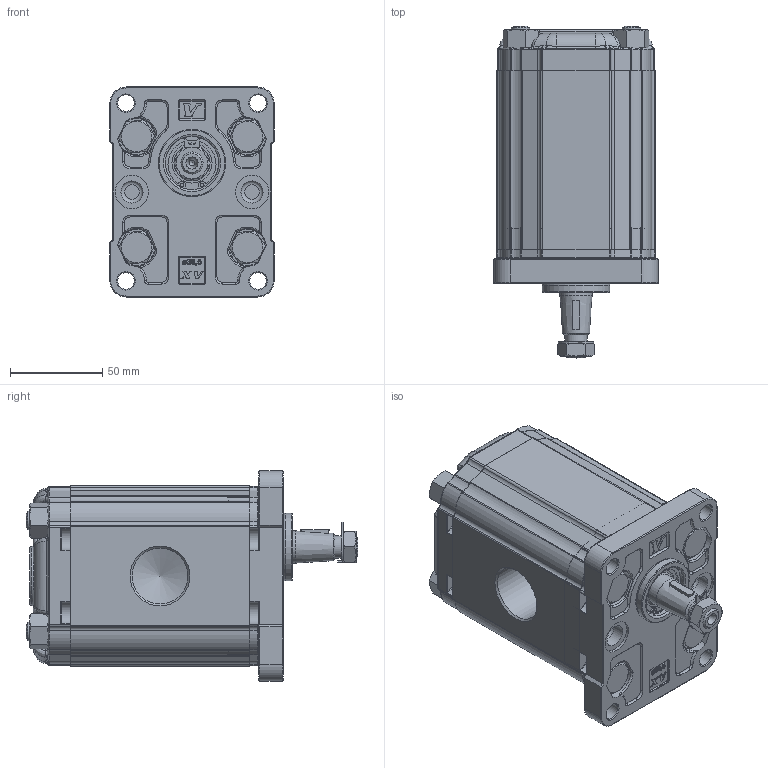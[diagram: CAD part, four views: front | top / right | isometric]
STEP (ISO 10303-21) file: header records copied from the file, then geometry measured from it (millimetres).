
FILE_DESCRIPTION( ( 'Unknown' ), '1' );
FILE_NAME( 'P:/montaggio_easy/output/STP/X2R6101EDDE.stp', 'Unknown', ( 'Unknown' ), ( 'Unknown' ), 'PSStep 14.0', 'Unknown', ' ' );
FILE_SCHEMA( ( 'AUTOMOTIVE_DESIGN { 1 0 10303 214 1 1 1 1 }' ) );
Length unit declared in the file: millimetre
Products named in the file (5): Assem1; X2R01; 2E; X2DDH97; XR201-E
Bounding box: 89 x 179.65 x 113.7 mm (x, y, z)
Surface area: 233197.5 mm2
Topology: 8 solids, 10 shells, 2736 faces, 6942 edges, 4370 vertices
Faces by surface type: plane 1100, cylinder 774, torus 326, extrusion 204, cone 190, bspline 134, sphere 8
Full cylindrical faces by diameter (mm): 2 x4, 9 x8, 10 x8, 11.445 x2, 12 x8, 12.5 x2, 16 x8, 17.42 x2, 17.48 x4, 18 x4, 18.724 x2, 20.595 x2, 21.741 x2, 25.834 x2, 28.56 x2, 28.57 x2, 28.8 x2, 30.291 x4, 30.5 x2, 36.5 x2
Entity records: 58861 total; most frequent: CARTESIAN_POINT 15669, ORIENTED_EDGE 6726, DIRECTION 6537, EDGE_CURVE 3363, AXIS2_PLACEMENT_3D 2370, VERTEX_POINT 2161, VECTOR 1797, LINE 1695
